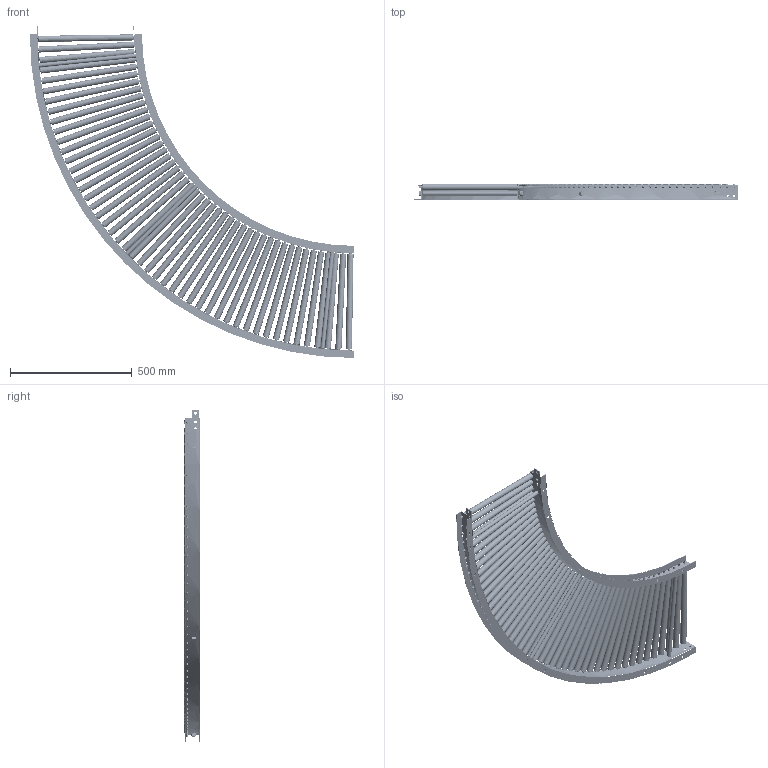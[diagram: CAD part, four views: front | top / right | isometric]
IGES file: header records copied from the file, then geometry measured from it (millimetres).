
Start section: SolidWorks IGES file using analytic representation for surfaces
Global section: file name: C:\Users\0656\Desktop\変換ツール\iges変換\S-2512P_C.igs; native system: SolidWorks 2023; preprocessor: SolidWorks 2023; author: 0656; date: 240302.141209; units: millimetre
Bounding box: 1330 x 63.7 x 1361.57 mm (x, y, z)
Surface area: 3798527.8 mm2 (no closed solid volume)
Topology: 0 solids, 0 shells, 2436 faces, 36060 edges, 36060 vertices
Faces by surface type: bspline 1530, revolution 906
